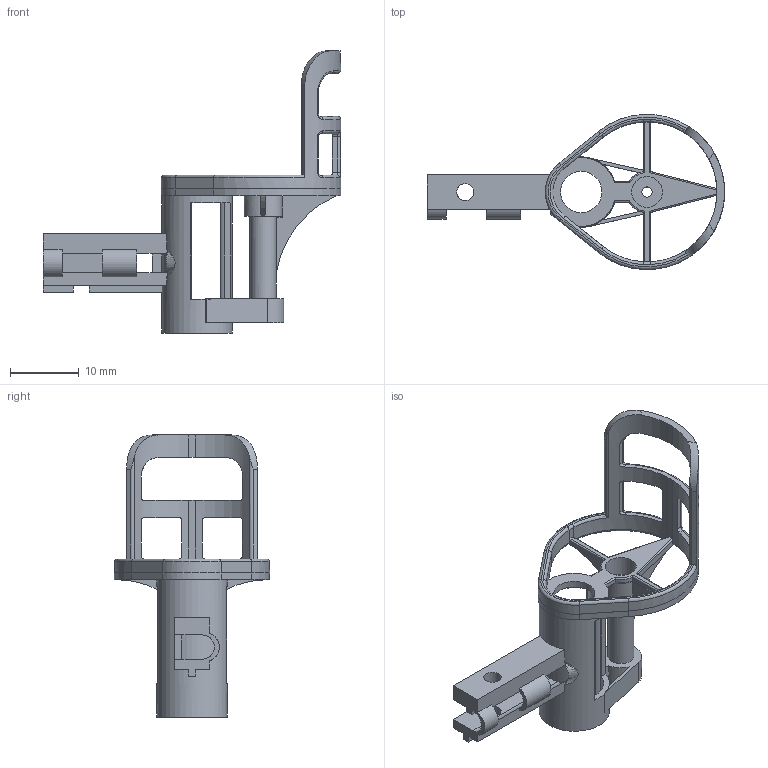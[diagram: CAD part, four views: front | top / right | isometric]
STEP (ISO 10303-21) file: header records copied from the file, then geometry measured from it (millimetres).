
FILE_DESCRIPTION(/* description */ ('Alibre Inc.'),/* implementation_level */ '2;1');
FILE_NAME(/* name */ 'export0',/* time_stamp */ '2015-11-25T17:11:49+01:00',/* author */ (''),/* organization */ (''),/* preprocessor_version */ 'ST-DEVELOPER v14',/* originating_system */ 'Alibre',/* authorisation */ '');
FILE_SCHEMA (('CONFIG_CONTROL_DESIGN'));
Length unit declared in the file: centimetre
Products named in the file (1): ID_1
Bounding box: 43.1 x 22.51 x 40.9 mm (x, y, z)
Volume: 1587.4 mm3; surface area: 3584 mm2
Topology: 1 solids, 1 shells, 244 faces, 688 edges, 431 vertices
Faces by surface type: cylinder 104, plane 102, torus 21, bspline 17
Full cylindrical faces by diameter (mm): 1.5 x1, 2.5 x2, 3.8 x1, 4.5 x1, 5 x1, 6 x1, 10.2 x1
Entity records: 11089 total; most frequent: CARTESIAN_POINT 5086, ORIENTED_EDGE 1350, DIRECTION 1062, EDGE_CURVE 675, AXIS2_PLACEMENT_3D 433, VERTEX_POINT 428, VECTOR 306, LINE 306
